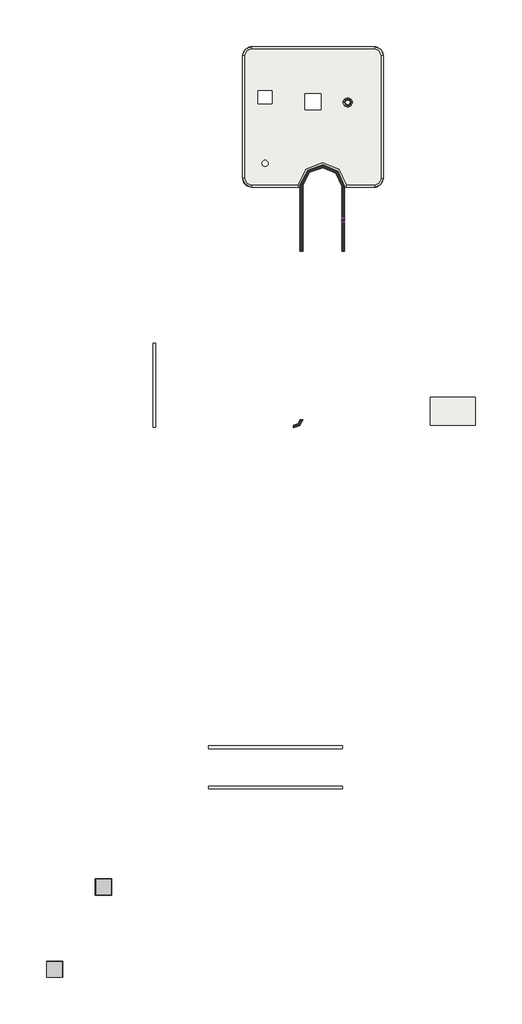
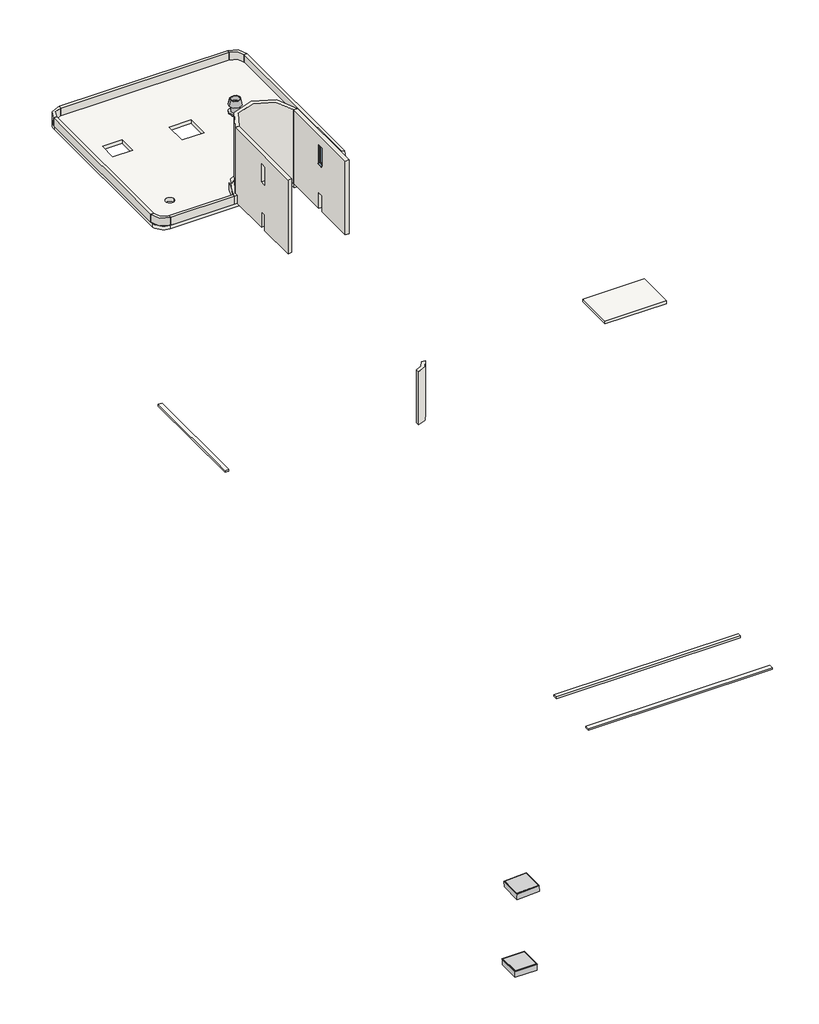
# One storey, incomplete: 14 walls, 5 slabs, 3 proxies, 1 window.
"""IFC4 building model written with IfcOpenShell, lengths in millimetres."""

from ifc_helpers import new_model, si_unit, point, frame, frame_2d, origin, place, context, project, spatial, polyline, circle_curve, trimmed, segment, composite_curve, outline, extrude, faceted_brep, transform, mapped, element, save
from ifc_brep_helpers import plane_surface, cylinder_surface, revolved_surface, advanced_brep
from components import famille_0_famille_110x110_type_2_30ba7d39, tube_de_toiture1_tube_de_toiture_880e59f0, window_32_x_105_cm_0fb57c5f

model = new_model("IFC4")

# Units and contexts
model_context = context("Model", 3, world=origin())
ifc_project = project(units=[si_unit("LENGTHUNIT", "METRE", prefix="MILLI")], contexts=[model_context])

# Site, building, storey
site = spatial("IfcSite", under=ifc_project)
building = spatial("IfcBuilding", under=site)
storey = spatial("IfcBuildingStorey", under=building, Name="Niveau 1  - 03", Elevation=5771.8727639)

# Proxies
placement = place(None, origin())
famille_0_famille_110x110_type_2_shape = famille_0_famille_110x110_type_2_30ba7d39(model_context)
element("IfcBuildingElementProxy", 1, Name="Famille 0 : Famille 110x110", ObjectType="Famille 0 : Famille 110x110", at=placement, inside=storey, context=model_context, shape_type="MappedRepresentation", body=[
    mapped(famille_0_famille_110x110_type_2_shape, transform((-33631.108053, -36604.322974, 3340.2420158), x_axis=(-0.9986295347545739, 0.0, -0.052335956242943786), y_axis=(0.0, -1.0, 0.0), z_axis=(-0.052335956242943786, 0.0, 0.9986295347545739))),
])
element("IfcBuildingElementProxy", 2, Name="Famille 0 : Famille 110x110", ObjectType="Famille 0 : Famille 110x110", at=placement, inside=storey, context=model_context, shape_type="MappedRepresentation", body=[
    mapped(famille_0_famille_110x110_type_2_shape, transform((-37284.5797272, -42742.9977645, 3853.3082742), x_axis=(0.0, 1.0, 0.0), y_axis=(-1.0, 0.0, 0.0), z_axis=(0.0, 0.0, 1.0))),
])
tube_de_toiture1_tube_de_toiture_shape = tube_de_toiture1_tube_de_toiture_880e59f0(model_context)
element("IfcBuildingElementProxy", 3, Name="Tube de toiture1 : Tube de toiture", ObjectType="Tube de toiture1 : Tube de toiture", at=placement, inside=storey, context=model_context, shape_type="MappedRepresentation", body=[
    mapped(tube_de_toiture1_tube_de_toiture_shape, transform((0.0, 0.0, 0.0), x_axis=(1.0, 0.0, 0.0), y_axis=(0.0, 1.0, 0.0), z_axis=(0.0, 0.0, 1.0))),
])

# Slabs
element("IfcSlab", 4, ObjectType="Dalle béton 200mm", at=placement, inside=storey, context=model_context, shape_type="AdvancedBrep", body=[
    advanced_brep(
    [(-18754.0589196, 15631.1606676, 5571.8727639), (-22586.1843928, 15631.1606676, 5571.8727639), (-23229.1642572, 16130.5788408, 5571.8727639), (-23229.1642572, 25428.0305911, 5571.8727639), (-22565.5504228, 26091.6444255, 5571.8727639), (-13415.1651695, 26091.6444255, 5571.8727639), (-12753.5797272, 25479.8767464, 5571.8727639), (-12753.5797272, 16287.2905434, 5571.8727639), (-13302.6261087, 15621.1606676, 5571.8727639), (-15834.7430085, 15621.1606676, 5571.8727639), (-18600.3577962, 22599.7725678, 5571.8727639), (-18600.3577962, 21399.5897741, 5571.8727639), (-17400.3577962, 21399.5897741, 5571.8727639), (-17400.3577962, 22599.7725678, 5571.8727639), (-21034.5164155, 22802.7866388, 5571.8727639), (-22107.5164155, 22802.7866388, 5571.8727639), (-22107.5164155, 21829.6384236, 5571.8727639), (-21034.5164155, 21829.6384236, 5571.8727639), (-21793.810441, 17396.0043299, 5571.8727639), (-21348.22239, 17396.0043299, 5571.8727639), (-15588.7478905, 21940.3392248, 5571.8727639), (-15208.7478905, 21940.3392248, 5571.8727639), (-18754.0589196, 15631.1606676, 5771.8727639), (-15834.7430085, 15621.1606676, 5771.8727639), (-13302.6261087, 15621.1606676, 5771.8727639), (-12753.5797272, 16287.2905434, 5771.8727639), (-12753.5797272, 25479.8767464, 5771.8727639), (-13415.1651695, 26091.6444255, 5771.8727639), (-22565.5504228, 26091.6444255, 5771.8727639), (-23229.1642572, 25428.0305911, 5771.8727639), (-23229.1642572, 16130.5788408, 5771.8727639), (-22586.1843928, 15631.1606676, 5771.8727639), (-18600.3577962, 22599.7725678, 5771.8727639), (-17400.3577962, 22599.7725678, 5771.8727639), (-17400.3577962, 21399.5897741, 5771.8727639), (-18600.3577962, 21399.5897741, 5771.8727639), (-21034.5164155, 22802.7866388, 5771.8727639), (-21034.5164155, 21829.6384236, 5771.8727639), (-22107.5164155, 21829.6384236, 5771.8727639), (-22107.5164155, 22802.7866388, 5771.8727639), (-21793.810441, 17396.0043299, 5771.8727639), (-21348.22239, 17396.0043299, 5771.8727639), (-15588.7478905, 21940.3392248, 5771.8727639), (-15208.7478905, 21940.3392248, 5771.8727639), (-18600.3577962, 21399.5897741, 5693.0257017), (-17400.3577962, 21399.5897741, 5693.0257017), (-22107.5164155, 21829.6384236, 5700.5322288), (-21034.5164155, 21829.6384236, 5700.5322288)],
    [
        (0, 1),
        (1, 2, circle_curve(frame((-22586.1843928, 16294.774502, 5571.8727639), z_axis=(0.0, 0.0, -1.0), x_axis=(1.0, 0.0, 0.0)), 663.6138344)),
        (2, 3),
        (3, 4, circle_curve(frame((-22565.5504228, 25428.0305911, 5571.8727639), z_axis=(0.0, 0.0, -1.0), x_axis=(1.0, 0.0, 0.0)), 663.6138344)),
        (4, 5),
        (5, 6, circle_curve(frame((-13415.1651695, 25428.0305911, 5571.8727639), z_axis=(0.0, 0.0, -1.0), x_axis=(1.0, 0.0, 0.0)), 663.6138344)),
        (6, 7),
        (7, 8, circle_curve(frame((-13432.1935616, 16287.2905434, 5571.8727639), z_axis=(0.0, 0.0, -1.0), x_axis=(1.0, 0.0, 0.0)), 678.6138344)),
        (8, 9),
        (9, 0, circle_curve(frame((-17294.4269483, 15618.5750358, 5571.8727639), z_axis=(0.0, 0.0, 1.0), x_axis=(1.0, 0.0, 0.0)), 1459.6862298)),
        (10, 11),
        (11, 12),
        (12, 13),
        (13, 10),
        (14, 15),
        (15, 16),
        (16, 17),
        (17, 14),
        (18, 19, circle_curve(frame((-21571.0164155, 17396.0043299, 5571.8727639), z_axis=(0.0, 0.0, 1.0), x_axis=(1.0, 0.0, 0.0)), 222.7940255)),
        (19, 18, circle_curve(frame((-21571.0164155, 17396.0043299, 5571.8727639), z_axis=(0.0, 0.0, 1.0), x_axis=(1.0, 0.0, 0.0)), 222.7940255)),
        (20, 21, circle_curve(frame((-15398.7478905, 21940.3392248, 5571.8727639), z_axis=(0.0, 0.0, 1.0), x_axis=(1.0, 0.0, 0.0)), 190.0)),
        (21, 20, circle_curve(frame((-15398.7478905, 21940.3392248, 5571.8727639), z_axis=(0.0, 0.0, 1.0), x_axis=(1.0, 0.0, 0.0)), 190.0)),
        (22, 23, circle_curve(frame((-17294.4269483, 15618.5750358, 5771.8727639), z_axis=(0.0, 0.0, -1.0), x_axis=(1.0, 0.0, 0.0)), 1459.6862298)),
        (23, 24),
        (24, 25, circle_curve(frame((-13432.1935616, 16287.2905434, 5771.8727639), z_axis=(0.0, 0.0, 1.0), x_axis=(1.0, 0.0, 0.0)), 678.6138344)),
        (25, 26),
        (26, 27, circle_curve(frame((-13415.1651695, 25428.0305911, 5771.8727639), z_axis=(0.0, 0.0, 1.0), x_axis=(1.0, 0.0, 0.0)), 663.6138344)),
        (27, 28),
        (28, 29, circle_curve(frame((-22565.5504228, 25428.0305911, 5771.8727639), z_axis=(0.0, 0.0, 1.0), x_axis=(1.0, 0.0, 0.0)), 663.6138344)),
        (29, 30),
        (30, 31, circle_curve(frame((-22586.1843928, 16294.774502, 5771.8727639), z_axis=(0.0, 0.0, 1.0), x_axis=(1.0, 0.0, 0.0)), 663.6138344)),
        (31, 22),
        (32, 33),
        (33, 34),
        (34, 35),
        (35, 32),
        (36, 37),
        (37, 38),
        (38, 39),
        (39, 36),
        (40, 41, circle_curve(frame((-21571.0164155, 17396.0043299, 5771.8727639), z_axis=(0.0, 0.0, -1.0), x_axis=(1.0, 0.0, 0.0)), 222.7940255)),
        (41, 40, circle_curve(frame((-21571.0164155, 17396.0043299, 5771.8727639), z_axis=(0.0, 0.0, -1.0), x_axis=(1.0, 0.0, 0.0)), 222.7940255)),
        (42, 43, circle_curve(frame((-15398.7478905, 21940.3392248, 5771.8727639), z_axis=(0.0, 0.0, -1.0), x_axis=(1.0, 0.0, 0.0)), 190.0)),
        (43, 42, circle_curve(frame((-15398.7478905, 21940.3392248, 5771.8727639), z_axis=(0.0, 0.0, -1.0), x_axis=(1.0, 0.0, 0.0)), 190.0)),
        (9, 23),
        (22, 0),
        (31, 1),
        (30, 2),
        (29, 3),
        (28, 4),
        (27, 5),
        (26, 6),
        (25, 7),
        (24, 8),
        (10, 32),
        (35, 44),
        (44, 11),
        (34, 45),
        (45, 12),
        (33, 13),
        (14, 36),
        (39, 15),
        (38, 46),
        (46, 16),
        (37, 47),
        (47, 17),
        (18, 40),
        (41, 19),
        (20, 42),
        (43, 21),
    ],
    [
        plane_surface(frame((-22586.1843928, 15631.1606676, 5571.8727639), z_axis=(0.0, 0.0, -1.0), x_axis=(-1.0, 0.0, 0.0))),
        plane_surface(frame((-22586.1843928, 15631.1606676, 5771.8727639), z_axis=(0.0, 0.0, 1.0), x_axis=(1.0, 0.0, 0.0))),
        revolved_surface(polyline([(-15834.7407185, 15618.5750358, 5771.8727639), (-15834.7407185, 15618.5750358, 5571.8727639)]), (-17294.4269483, 15618.5750358, 5771.8727639), (0.0, 0.0, 1.0)),
        plane_surface(frame((-18754.0589196, 15631.1606676, 5571.8727639), z_axis=(0.0, -1.0, 0.0), x_axis=(0.0, 0.0, 1.0))),
        cylinder_surface(frame((-22586.1843928, 16294.774502, 5771.8727639), z_axis=(0.0, 0.0, -1.0), x_axis=(1.0, 0.0, 0.0)), 663.6138344),
        plane_surface(frame((-23229.1642572, 16130.5788408, 5571.8727639), z_axis=(-1.0, 0.0, 0.0), x_axis=(0.0, 0.0, 1.0))),
        cylinder_surface(frame((-22565.5504228, 25428.0305911, 5771.8727639), z_axis=(0.0, 0.0, -1.0), x_axis=(1.0, 0.0, 0.0)), 663.6138344),
        plane_surface(frame((-22565.5504228, 26091.6444255, 5571.8727639), z_axis=(0.0, 1.0, 0.0), x_axis=(0.0, 0.0, 1.0))),
        cylinder_surface(frame((-13415.1651695, 25428.0305911, 5771.8727639), z_axis=(0.0, 0.0, -1.0), x_axis=(1.0, 0.0, 0.0)), 663.6138344),
        plane_surface(frame((-12753.5797272, 25479.8767464, 5571.8727639), z_axis=(1.0, 0.0, 0.0), x_axis=(0.0, 0.0, 1.0))),
        cylinder_surface(frame((-13432.1935616, 16287.2905434, 5771.8727639), z_axis=(0.0, 0.0, -1.0), x_axis=(1.0, 0.0, 0.0)), 678.6138344),
        plane_surface(frame((-13302.6261087, 15621.1606676, 5571.8727639), z_axis=(0.0, -1.0, 0.0), x_axis=(0.0, 0.0, 1.0))),
        plane_surface(frame((-18600.3577962, 22599.7725678, 5571.8727639), z_axis=(1.0, 0.0, 0.0), x_axis=(0.0, 0.0, 1.0))),
        plane_surface(frame((-18600.3577962, 21399.5897741, 5571.8727639), z_axis=(0.0, 1.0, 0.0), x_axis=(0.0, 0.0, 1.0))),
        plane_surface(frame((-17400.3577962, 21399.5897741, 5571.8727639), z_axis=(-1.0, 0.0, 0.0), x_axis=(0.0, 0.0, 1.0))),
        plane_surface(frame((-17400.3577962, 22599.7725678, 5571.8727639), z_axis=(0.0, -1.0, 0.0), x_axis=(0.0, 0.0, 1.0))),
        plane_surface(frame((-21034.5164155, 22802.7866388, 5571.8727639), z_axis=(0.0, -1.0, 0.0), x_axis=(0.0, 0.0, 1.0))),
        plane_surface(frame((-22107.5164155, 22802.7866388, 5571.8727639), z_axis=(1.0, 0.0, 0.0), x_axis=(0.0, 0.0, 1.0))),
        plane_surface(frame((-22107.5164155, 21829.6384236, 5571.8727639), z_axis=(0.0, 1.0, 0.0), x_axis=(0.0, 0.0, 1.0))),
        plane_surface(frame((-21034.5164155, 21829.6384236, 5571.8727639), z_axis=(-1.0, 0.0, 0.0), x_axis=(0.0, 0.0, 1.0))),
        revolved_surface(polyline([(-21348.22239, 17396.0043299, 5771.8727639), (-21348.22239, 17396.0043299, 5571.8727639)]), (-21571.0164155, 17396.0043299, 5771.8727639), (0.0, 0.0, 1.0)),
        revolved_surface(polyline([(-15208.7478905, 21940.3392248, 5771.8727639), (-15208.7478905, 21940.3392248, 5571.8727639)]), (-15398.7478905, 21940.3392248, 5771.8727639), (0.0, 0.0, 1.0)),
    ],
    [
        (0, [[1, 2, 3, 4, 5, 6, 7, 8, 9, 10], [11, 12, 13, 14], [15, 16, 17, 18], [19, 20], [21, 22]]),
        (1, [[23, 24, 25, 26, 27, 28, 29, 30, 31, 32], [33, 34, 35, 36], [37, 38, 39, 40], [41, 42], [43, 44]]),
        (2, [[-10, 45, -23, 46]]),
        (3, [[-1, -46, -32, 47]]),
        (4, [[-2, -47, -31, 48]]),
        (5, [[-3, -48, -30, 49]]),
        (6, [[-4, -49, -29, 50]]),
        (7, [[-5, -50, -28, 51]]),
        (8, [[-6, -51, -27, 52]]),
        (9, [[-7, -52, -26, 53]]),
        (10, [[-8, -53, -25, 54]]),
        (11, [[-9, -54, -24, -45]]),
        (12, [[-11, 55, -36, 56, 57]]),
        (13, [[-12, -57, -56, -35, 58, 59]]),
        (14, [[-13, -59, -58, -34, 60]]),
        (15, [[-14, -60, -33, -55]]),
        (16, [[-15, 61, -40, 62]]),
        (17, [[-16, -62, -39, 63, 64]]),
        (18, [[-17, -64, -63, -38, 65, 66]]),
        (19, [[-18, -66, -65, -37, -61]]),
        (20, [[-19, 67, -42, 68]]),
        (20, [[-20, -68, -41, -67]]),
        (21, [[-21, 69, -44, 70]]),
        (21, [[-22, -70, -43, -69]]),
    ],
),
])
element("IfcSlab", 5, ObjectType="Béton sur place 150mm", at=placement, inside=storey, context=model_context, shape_type="SweptSolid", body=[
    extrude(outline(polyline([(-9213.9891716, -77.7877599), (-5877.0712168, -77.7877599), (-5877.0712168, -2159.1151398), (-9213.9891716, -2159.1151398), (-9213.9891716, -77.7877599)])), frame((0.0, 0.0, 6205.3082742), z_axis=(0.0, 0.0, 1.0), x_axis=(1.0, 0.0, 0.0)), (0.0, 0.0, 1.0), 150.0),
])
element("IfcSlab", 6, ObjectType="étanchéité terrasse 100mm", at=placement, inside=storey, context=model_context, shape_type="SweptSolid", body=[
    extrude(outline(polyline([(-15797.6697002, -29068.571453), (-15797.6697002, -29288.571453), (-25793.9891728, -29288.571453), (-25793.9891728, -29068.571453), (-15797.6697002, -29068.571453)])), frame((0.0, 0.0, 5132.7489541), z_axis=(0.0, 0.0, 1.0), x_axis=(1.0, 0.0, 0.0)), (0.0, 0.0, 1.0), 100.0),
])
element("IfcSlab", 7, ObjectType="étanchéité terrasse 100mm", at=placement, inside=storey, context=model_context, shape_type="SweptSolid", body=[
    extrude(outline(polyline([(-15797.6697002, -26078.571453), (-15797.6697002, -26298.571453), (-25793.9891728, -26298.571453), (-25793.9891728, -26078.571453), (-15797.6697002, -26078.571453)])), frame((0.0, 0.0, 5132.7489541), z_axis=(0.0, 0.0, 1.0), x_axis=(1.0, 0.0, 0.0)), (0.0, 0.0, 1.0), 100.0),
])
element("IfcSlab", 8, ObjectType="étanchéité terrasse 100mm", at=placement, inside=storey, context=model_context, shape_type="Brep", body=[
    faceted_brep([(-29743.5797272, -2292.822974, 5022.7489541), (-29943.5797272, -2292.822974, 5022.7489541), (-29943.5797272, 3982.177026, 5022.7489541), (-29743.5797272, 3982.177026, 5022.7489541), (-29743.5797272, -2292.822974, 5122.7489541), (-29743.5797272, 3982.177026, 5122.7489541), (-29943.5797272, 3982.177026, 5122.7489541), (-29943.5797272, -2292.822974, 5122.7489541), (-29743.5797272, -2292.822974, 5121.2285931), (-29743.5797272, 3982.177026, 5121.2285931)], [[[0, 1, 2, 3]], [[4, 5, 6, 7]], [[1, 0, 8, 4, 7]], [[2, 1, 7, 6]], [[3, 2, 6, 5, 9]], [[0, 3, 9, 5, 4, 8]]]),
])

# Walls
element("IfcWall", 9, ObjectType="Mur EXE 200- Hach", at=placement, inside=storey, context=model_context, shape_type="Brep", body=[
    faceted_brep([(-15835.8209314, 10820.8848592, 9997.3082742), (-15835.8209314, 15675.5365527, 9997.3082742), (-15835.8209314, 15675.5365527, 5771.8727639), (-15835.8209314, 13328.7839151, 5771.8727639), (-15835.8209314, 13328.7839151, 6671.8727639), (-15835.8209314, 13008.7839151, 6671.8727639), (-15835.8209314, 13008.7839151, 5771.8727639), (-15835.8209314, 10820.8848592, 5771.8727639), (-15835.8209314, 13008.7839151, 9417.3082742), (-15835.8209314, 13008.7839151, 8367.3082742), (-15835.8209314, 13328.7839151, 8367.3082742), (-15835.8209314, 13328.7839151, 9417.3082742), (-15635.8209314, 15679.1842642, 9997.3082742), (-15635.8209314, 10820.8848592, 9997.3082742), (-15635.8209314, 10820.8848592, 5771.8727639), (-15635.8209314, 13008.7839151, 5771.8727639), (-15635.8209314, 13008.7839151, 6671.8727639), (-15635.8209314, 13328.7839151, 6671.8727639), (-15635.8209314, 13328.7839151, 5771.8727639), (-15635.8209314, 15679.1842642, 5771.8727639), (-15635.8209314, 13008.7839151, 8367.3082742), (-15635.8209314, 13008.7839151, 9417.3082742), (-15635.8209314, 13328.7839151, 9417.3082742), (-15635.8209314, 13328.7839151, 8367.3082742)], [[[0, 1, 2, 3, 4, 5, 6, 7], [8, 9, 10, 11]], [[12, 13, 14, 15, 16, 17, 18, 19], [20, 21, 22, 23]], [[2, 19, 18, 3]], [[14, 7, 6, 15]], [[1, 0, 13, 12]], [[7, 14, 13, 0]], [[2, 1, 12, 19]], [[21, 20, 9, 8]], [[22, 21, 8, 11]], [[23, 22, 11, 10]], [[20, 23, 10, 9]], [[5, 16, 15, 6]], [[16, 5, 4, 17]], [[17, 4, 3, 18]]]),
])
element("IfcWall", 10, ObjectType="Mur EXE 200- Hach", at=placement, inside=storey, context=model_context, shape_type="Brep", body=[
    faceted_brep([(-18944.0938634, 10820.8848592, 9997.3082742), (-18944.0938634, 15808.6255348, 9997.3082742), (-18944.0938634, 15808.6255348, 5771.8727639), (-18944.0938634, 13328.7839151, 5771.8727639), (-18944.0938634, 13328.7839151, 6671.8727639), (-18944.0938634, 13008.7839151, 6671.8727639), (-18944.0938634, 13008.7839151, 5771.8727639), (-18944.0938634, 10820.8848592, 5771.8727639), (-18944.0938634, 13008.7839151, 8367.3082742), (-18944.0938634, 13328.7839151, 8367.3082742), (-18944.0938634, 13328.7839151, 9417.3082742), (-18944.0938634, 13008.7839151, 9417.3082742), (-18744.0938634, 15796.8921154, 9997.3082742), (-18744.0938634, 10820.8848592, 9997.3082742), (-18744.0938634, 10820.8848592, 5771.8727639), (-18744.0938634, 13008.7839151, 5771.8727639), (-18744.0938634, 13008.7839151, 6671.8727639), (-18744.0938634, 13328.7839151, 6671.8727639), (-18744.0938634, 13328.7839151, 5771.8727639), (-18744.0938634, 15796.8921154, 5771.8727639), (-18744.0938634, 13008.7839151, 8367.3082742), (-18744.0938634, 13008.7839151, 9417.3082742), (-18744.0938634, 13328.7839151, 9417.3082742), (-18744.0938634, 13328.7839151, 8367.3082742), (-18914.0938634, 10820.8848592, 5771.8727639)], [[[0, 1, 2, 3, 4, 5, 6, 7], [8, 9, 10, 11]], [[12, 13, 14, 15, 16, 17, 18, 19], [20, 21, 22, 23]], [[2, 19, 18, 3]], [[14, 24, 7, 6, 15]], [[1, 0, 13, 12]], [[7, 24, 14, 13, 0]], [[2, 1, 12, 19]], [[5, 16, 15, 6]], [[16, 5, 4, 17]], [[17, 4, 3, 18]], [[21, 20, 8, 11]], [[22, 21, 11, 10]], [[23, 22, 10, 9]], [[20, 23, 9, 8]]]),
])
element("IfcWall", 11, ObjectType="Mur EXE 200- Hach", at=placement, inside=storey, context=model_context, shape_type="SweptSolid", body=[
    extrude(outline(composite_curve([segment(polyline([(-18744.0938634, 15796.8921154), (-18944.0938634, 15808.6255348)]), True, "CONTINUOUS"), segment(trimmed(circle_curve(frame_2d((-17294.7844915, 15620.533548)), 1660.0), [point((-18944.0938634, 15808.6255348))], [point((-15635.8209314, 15679.1842642))], False, "CARTESIAN"), True, "CONTINUOUS"), segment(polyline([(-15635.8209314, 15679.1842642), (-15835.8209314, 15675.5365527)]), True, "CONTINUOUS"), segment(trimmed(circle_curve(frame_2d((-17294.7844915, 15620.533548)), 1460.0), [point((-15835.8209314, 15675.5365527))], [point((-18744.0938634, 15796.8921154))], True, "CARTESIAN"), True, "CONTINUOUS")], self_intersect=False)), frame((0.0, 0.0, 5771.8727639), z_axis=(0.0, 0.0, 1.0), x_axis=(1.0, 0.0, 0.0)), (0.0, 0.0, 1.0), 4225.4355104),
])
element("IfcWall", 12, ObjectType="@_Générique - Int. 150 mm", at=placement, inside=storey, context=model_context, shape_type="SweptSolid", body=[
    extrude(outline(polyline([(-22565.5504228, 26106.6444244), (-13415.1651695, 26106.6444244), (-13415.1651695, 25956.6444244), (-22565.5504228, 25956.6444244), (-22565.5504228, 26106.6444244)])), frame((0.0, 0.0, 5771.8727639), z_axis=(0.0, 0.0, 1.0), x_axis=(1.0, 0.0, 0.0)), (0.0, 0.0, 1.0), 450.0),
])
element("IfcWall", 13, ObjectType="@_Générique - Int. 150 mm", at=placement, inside=storey, context=model_context, shape_type="SweptSolid", body=[
    extrude(outline(composite_curve([segment(polyline([(-22565.5504228, 26106.6444244), (-22565.5504228, 25956.6444244)]), True, "CONTINUOUS"), segment(trimmed(circle_curve(frame_2d((-22565.5504228, 25428.03059)), 528.6138344), [point((-22565.5504228, 25956.6444244))], [point((-23094.1642572, 25428.03059))], True, "CARTESIAN"), True, "CONTINUOUS"), segment(polyline([(-23094.1642572, 25428.03059), (-23244.1642572, 25428.03059)]), True, "CONTINUOUS"), segment(trimmed(circle_curve(frame_2d((-22565.5504228, 25428.03059)), 678.6138344), [point((-23244.1642572, 25428.03059))], [point((-22565.5504228, 26106.6444244))], False, "CARTESIAN"), True, "CONTINUOUS")], self_intersect=False)), frame((0.0, 0.0, 5771.8727639), z_axis=(0.0, 0.0, 1.0), x_axis=(1.0, 0.0, 0.0)), (0.0, 0.0, 1.0), 450.0),
])
element("IfcWall", 14, ObjectType="@_Générique - Int. 150 mm", at=placement, inside=storey, context=model_context, shape_type="SweptSolid", body=[
    extrude(outline(polyline([(-23094.1642567, 25428.03059), (-23094.1642567, 16294.774502), (-23244.1642567, 16294.774502), (-23244.1642567, 25428.03059), (-23094.1642567, 25428.03059)])), frame((0.0, 0.0, 5771.8727639), z_axis=(0.0, 0.0, 1.0), x_axis=(1.0, 0.0, 0.0)), (0.0, 0.0, 1.0), 450.0),
])
element("IfcWall", 15, ObjectType="@_Générique - Int. 150 mm", at=placement, inside=storey, context=model_context, shape_type="SweptSolid", body=[
    extrude(outline(composite_curve([segment(polyline([(-22565.5504223, 15766.1606684), (-19098.9166213, 15766.1606684)]), True, "CONTINUOUS"), segment(trimmed(circle_curve(frame_2d((-17294.7844915, 15620.533548)), 1810.0), [point((-19098.9166213, 15766.1606684))], [point((-19104.7792091, 15616.1606684))], True, "CARTESIAN"), True, "CONTINUOUS"), segment(polyline([(-19104.7792091, 15616.1606684), (-22565.5504223, 15616.1606684), (-22565.5504223, 15766.1606684)]), True, "CONTINUOUS")], self_intersect=False)), frame((0.0, 0.0, 5771.8727639), z_axis=(0.0, 0.0, 1.0), x_axis=(1.0, 0.0, 0.0)), (0.0, 0.0, 1.0), 450.0),
])
element("IfcWall", 16, ObjectType="@_Générique - Int. 150 mm", at=placement, inside=storey, context=model_context, shape_type="SweptSolid", body=[
    extrude(outline(composite_curve([segment(polyline([(-23244.1642567, 16294.774502), (-23094.1642567, 16294.774502)]), True, "CONTINUOUS"), segment(trimmed(circle_curve(frame_2d((-22565.5504223, 16294.774502)), 528.6138344), [point((-23094.1642567, 16294.774502))], [point((-22565.5504223, 15766.1606676))], True, "CARTESIAN"), True, "CONTINUOUS"), segment(polyline([(-22565.5504223, 15766.1606676), (-22565.5504223, 15616.1606676)]), True, "CONTINUOUS"), segment(trimmed(circle_curve(frame_2d((-22565.5504223, 16294.774502)), 678.6138344), [point((-22565.5504223, 15616.1606676))], [point((-23244.1642567, 16294.774502))], False, "CARTESIAN"), True, "CONTINUOUS")], self_intersect=False)), frame((0.0, 0.0, 5771.8727639), z_axis=(0.0, 0.0, 1.0), x_axis=(1.0, 0.0, 0.0)), (0.0, 0.0, 1.0), 450.0),
])
element("IfcWall", 17, ObjectType="@_Générique - Int. 150 mm", at=placement, inside=storey, context=model_context, shape_type="SweptSolid", body=[
    extrude(outline(composite_curve([segment(polyline([(-15489.8730575, 15756.1606676), (-13414.5311995, 15756.1606676), (-13414.5311995, 15606.1606676), (-15484.8415586, 15606.1606676)]), True, "CONTINUOUS"), segment(trimmed(circle_curve(frame_2d((-17294.7844915, 15620.533548)), 1810.0), [point((-15484.8415586, 15606.1606676))], [point((-15489.8730575, 15756.1606676))], True, "CARTESIAN"), True, "CONTINUOUS")], self_intersect=False)), frame((0.0, 0.0, 5771.8727639), z_axis=(0.0, 0.0, 1.0), x_axis=(1.0, 0.0, 0.0)), (0.0, 0.0, 1.0), 450.0),
])
element("IfcWall", 18, ObjectType="@_Générique - Int. 150 mm", at=placement, inside=storey, context=model_context, shape_type="SweptSolid", body=[
    extrude(outline(composite_curve([segment(polyline([(-13414.5311995, 15606.1606676), (-13414.5311995, 15756.1606676)]), True, "CONTINUOUS"), segment(trimmed(circle_curve(frame_2d((-13414.5311995, 16284.774502)), 528.6138344), [point((-13414.5311995, 15756.1606676))], [point((-12886.4725631, 16260.5533865))], True, "CARTESIAN"), True, "CONTINUOUS"), segment(polyline([(-12886.4725631, 16260.5533865), (-12736.6301066, 16253.6803781)]), True, "CONTINUOUS"), segment(trimmed(circle_curve(frame_2d((-13414.5311995, 16284.774502)), 678.6138344), [point((-12736.6301066, 16253.6803781))], [point((-13414.5311995, 15606.1606676))], False, "CARTESIAN"), True, "CONTINUOUS")], self_intersect=False)), frame((0.0, 0.0, 5771.8727639), z_axis=(0.0, 0.0, 1.0), x_axis=(1.0, 0.0, 0.0)), (0.0, 0.0, 1.0), 450.0),
])
element("IfcWall", 19, ObjectType="@_Générique - Int. 150 mm", at=placement, inside=storey, context=model_context, shape_type="SweptSolid", body=[
    extrude(outline(polyline([(-12886.5513349, 16243.0305911), (-12886.5513349, 25428.0305911), (-12736.5513349, 25428.0305911), (-12736.5513349, 16243.0305911), (-12886.5513349, 16243.0305911)])), frame((0.0, 0.0, 5771.8727639), z_axis=(0.0, 0.0, 1.0), x_axis=(1.0, 0.0, 0.0)), (0.0, 0.0, 1.0), 450.0),
])
element("IfcWall", 20, ObjectType="@_Générique - Int. 150 mm", at=placement, inside=storey, context=model_context, shape_type="SweptSolid", body=[
    extrude(outline(composite_curve([segment(polyline([(-12736.5513351, 25428.0305911), (-12886.5513351, 25428.0305911)]), True, "CONTINUOUS"), segment(trimmed(circle_curve(frame_2d((-13415.1651695, 25428.0305911)), 528.6138344), [point((-12886.5513351, 25428.0305911))], [point((-13415.1651695, 25956.6444255))], True, "CARTESIAN"), True, "CONTINUOUS"), segment(polyline([(-13415.1651695, 25956.6444255), (-13415.1651695, 26106.6444255)]), True, "CONTINUOUS"), segment(trimmed(circle_curve(frame_2d((-13415.1651695, 25428.0305911)), 678.6138344), [point((-13415.1651695, 26106.6444255))], [point((-12736.5513351, 25428.0305911))], False, "CARTESIAN"), True, "CONTINUOUS")], self_intersect=False)), frame((0.0, 0.0, 5771.8727639), z_axis=(0.0, 0.0, 1.0), x_axis=(1.0, 0.0, 0.0)), (0.0, 0.0, 1.0), 450.0),
])
element("IfcWall", 21, ObjectType="@_Générique - Int. 150 mm", at=placement, inside=storey, context=model_context, shape_type="AdvancedBrep", body=[
    advanced_brep(
    [(-15484.8415586, 15606.1606676, 6221.8727639), (-15489.8730579, 15756.1606733, 6221.8727639), (-19098.9167355, 15766.1590114, 6221.8727639), (-19104.7792091, 15616.1606684, 6221.8727639), (-18954.7787318, 15616.1606684, 6221.8727639), (-18944.0938634, 15808.6255348, 6221.8727639), (-15635.8209314, 15679.1842642, 6221.8727639), (-15634.8467154, 15606.1606676, 6221.8727639), (-19104.7792091, 15616.1606684, 5771.8727639), (-19098.9167355, 15766.1590114, 5771.8727639), (-15489.8730579, 15756.1606733, 5771.8727639), (-15484.8415586, 15606.1606676, 5771.8727639), (-15634.8467154, 15606.1606676, 5771.8727639), (-15635.8209314, 15679.1842642, 5771.8727639), (-18944.0938634, 15808.6255348, 5771.8727639), (-18954.7787318, 15616.1606684, 5771.8727639)],
    [
        (0, 1, circle_curve(frame((-17294.7844915, 15620.533548, 6221.8727639), z_axis=(0.0, 0.0, 1.0), x_axis=(1.0, 0.0, 0.0)), 1810.0)),
        (1, 2, circle_curve(frame((-17294.7844915, 15620.533548, 6221.8727639), z_axis=(0.0, 0.0, 1.0), x_axis=(1.0, 0.0, 0.0)), 1810.0)),
        (2, 3, circle_curve(frame((-17294.7844915, 15620.533548, 6221.8727639), z_axis=(0.0, 0.0, 1.0), x_axis=(1.0, 0.0, 0.0)), 1809.9999805)),
        (3, 4),
        (4, 5, circle_curve(frame((-17294.7844915, 15620.533548, 6221.8727639), z_axis=(0.0, 0.0, -1.0), x_axis=(1.0, 0.0, 0.0)), 1660.0)),
        (5, 6, circle_curve(frame((-17294.7844915, 15620.533548, 6221.8727639), z_axis=(0.0, 0.0, -1.0), x_axis=(1.0, 0.0, 0.0)), 1660.0)),
        (6, 7, circle_curve(frame((-17294.7844915, 15620.533548, 6221.8727639), z_axis=(0.0, 0.0, -1.0), x_axis=(1.0, 0.0, 0.0)), 1660.0)),
        (7, 0),
        (8, 9, circle_curve(frame((-17294.7844915, 15620.533548, 5771.8727639), z_axis=(0.0, 0.0, -1.0), x_axis=(1.0, 0.0, 0.0)), 1810.0)),
        (9, 10, circle_curve(frame((-17294.7844915, 15620.533548, 5771.8727639), z_axis=(0.0, 0.0, -1.0), x_axis=(1.0, 0.0, 0.0)), 1809.9999805)),
        (10, 11, circle_curve(frame((-17294.7844915, 15620.533548, 5771.8727639), z_axis=(0.0, 0.0, -1.0), x_axis=(1.0, 0.0, 0.0)), 1810.0)),
        (11, 12),
        (12, 13, circle_curve(frame((-17294.7844915, 15620.533548, 5771.8727639), z_axis=(0.0, 0.0, 1.0), x_axis=(1.0, 0.0, 0.0)), 1660.0)),
        (13, 14, circle_curve(frame((-17294.7844915, 15620.533548, 5771.8727639), z_axis=(0.0, 0.0, 1.0), x_axis=(1.0, 0.0, 0.0)), 1660.0)),
        (14, 15, circle_curve(frame((-17294.7844915, 15620.533548, 5771.8727639), z_axis=(0.0, 0.0, 1.0), x_axis=(1.0, 0.0, 0.0)), 1660.0)),
        (15, 8),
        (4, 15),
        (12, 7),
        (0, 11),
        (8, 3),
    ],
    [
        plane_surface(frame((-15634.7844915, 15620.533548, 6221.8727639), z_axis=(0.0, 0.0, 1.0), x_axis=(0.0, -1.0, 0.0))),
        plane_surface(frame((-15634.7844915, 15620.533548, 5771.8727639), z_axis=(0.0, 0.0, -1.0), x_axis=(0.0, 1.0, 0.0))),
        revolved_surface(polyline([(-15634.784491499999, 15620.533548, 5771.8727639), (-15634.784491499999, 15620.533548, 6221.8727639)]), (-17294.7844915, 15620.533548, 5771.8727639), (0.0, 0.0, -1.0)),
        cylinder_surface(frame((-17294.7844915, 15620.533548, 5771.8727639), z_axis=(0.0, 0.0, 1.0), x_axis=(1.0, 0.0, 0.0)), 1810.0),
        plane_surface(frame((-18944.0938634, 15616.1606684, 5771.8727639), z_axis=(0.0, -1.0, 0.0), x_axis=(1.0, 0.0, 0.0))),
        plane_surface(frame((-13623.1776141, 15606.1606676, 5771.8727639), z_axis=(0.0, -1.0, 0.0), x_axis=(1.0, 0.0, 0.0))),
    ],
    [
        (0, [[1, 2, 3, 4, 5, 6, 7, 8]]),
        (1, [[9, 10, 11, 12, 13, 14, 15, 16]]),
        (2, [[17, -15, -14, -13, 18, -7, -6, -5]]),
        (3, [[-3, -2, -1, 19, -11, -10, -9, 20]]),
        (4, [[-4, -20, -16, -17]]),
        (5, [[-8, -18, -12, -19]]),
    ],
),
])
element("IfcWall", 22, ObjectType="@_Générique - Int. 200 mm", at=placement, inside=storey, context=model_context, shape_type="SweptSolid", body=[
    extrude(outline(composite_curve([segment(polyline([(-19458.1879319, -2349.0637014), (-19458.1879319, -2148.9797446)]), True, "CONTINUOUS"), segment(trimmed(circle_curve(frame_2d((-19476.7134089, -1601.9607197)), 547.3326292), [point((-19458.1879319, -2148.9797446))], [point((-18943.9891701, -1727.5708002))], True, "CARTESIAN"), True, "CONTINUOUS"), segment(polyline([(-18943.9891701, -1727.5708002), (-18743.9891701, -1749.0023753)]), True, "CONTINUOUS"), segment(trimmed(circle_curve(frame_2d((-19476.7134089, -1601.9607197)), 747.3326292), [point((-18743.9891701, -1749.0023753))], [point((-19458.1879319, -2349.0637014))], False, "CARTESIAN"), True, "CONTINUOUS")], self_intersect=False)), frame((0.0, 0.0, 4121.8727639), z_axis=(0.0, 0.0, 1.0), x_axis=(1.0, 0.0, 0.0)), (0.0, 0.0, 1.0), 3045.4355104),
])

# Window
window_32_x_105_cm_shape = window_32_x_105_cm_0fb57c5f(model_context)
element("IfcWindow", 23, ObjectType="Fenêtre type 1 : 32 x 105 cm", at=placement, inside=storey, context=model_context, shape_type="MappedRepresentation", body=[
    mapped(window_32_x_105_cm_shape, transform((-15735.8209314, 13168.7839151, 7567.3082742), x_axis=(0.0, 1.0, 0.0), y_axis=(-1.0, 0.0, 0.0), z_axis=(0.0, 0.0, 1.0))),
])

save(model, "model.ifc")
